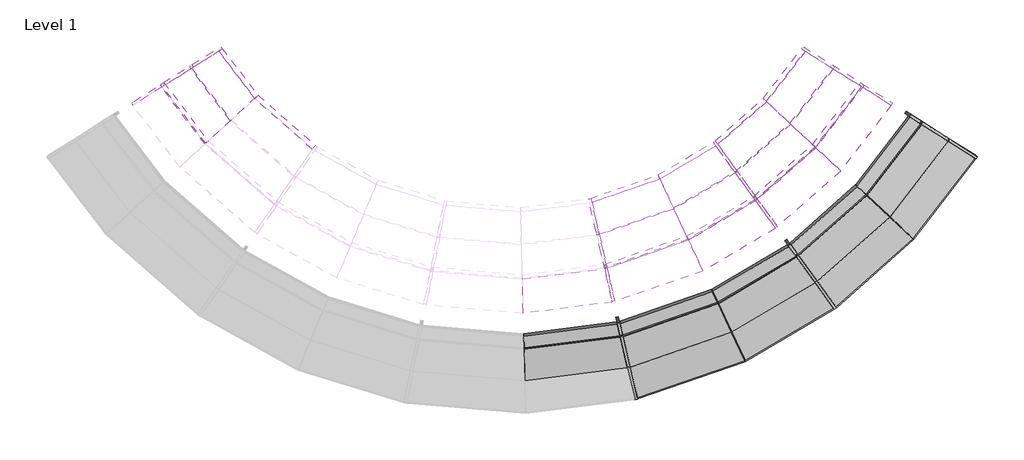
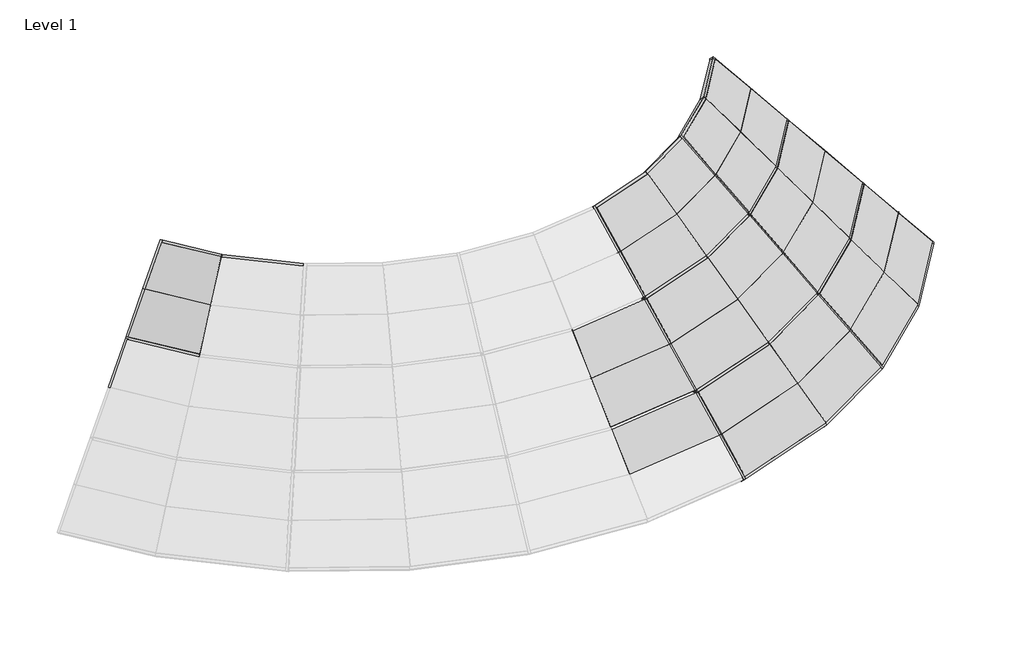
# One storey, part 2 of 2: 40 members, 29 plates.
"""IFC4 building model written with IfcOpenShell, lengths in millimetres."""

from ifc_helpers import new_model, si_unit, origin, place, context, project, spatial, transform, mapped, element, save
from components import member_44b84d8f, member_1634c9d9, member_0b05aa08, member_71fe8ef3, member_56d069ed, member_b45a1477, member_6b1a858c, member_b02eb1a0, member_f55f91ff, member_0534a094, member_226e51d8, member_2e5d21c2, member_49f7380d, member_76298f12, member_9ce02bd3, member_33b1c097, member_ecae5a84, member_2f7d4205, member_d2b3dc28, member_d7561c94, member_e1afa6be, member_a30be3ee, member_f37d5125, member_64ad3ddf, member_dc8b4db6, member_e949c9f9, member_73d7b1ca, member_ff94b395, member_0317ee9b, system_panel_glazed_ac056b50, system_panel_glazed_819b4604, system_panel_glazed_d60e5a7a, system_panel_glazed_abaf4edb, system_panel_glazed_d52020fd, system_panel_glazed_5f14ad94, system_panel_glazed_a80fbb92, system_panel_glazed_601a3350, system_panel_glazed_839ff4eb, system_panel_glazed_6834b28e, system_panel_glazed_842aa2e1, system_panel_glazed_79b39dd9, system_panel_glazed_6abd9531, system_panel_glazed_5d3b9be6, system_panel_glazed_2e1f7ecc, system_panel_glazed_8beea25a, system_panel_glazed_fb6dfde9, system_panel_glazed_ada13052, system_panel_glazed_84b50dde, system_panel_glazed_1a7a9327, system_panel_glazed_52743ef8, system_panel_glazed_40fbaaaa, system_panel_glazed_feeb608c, system_panel_glazed_8ef4ce16, system_panel_glazed_74486a92, system_panel_glazed_d4b71dd6, system_panel_glazed_5ea31307

model = new_model("IFC4")

# Units and contexts
model_context = context("Model", 3, world=origin())
ifc_project = project(units=[si_unit("LENGTHUNIT", "METRE", prefix="MILLI")], contexts=[model_context])

# Site, building, storey
site = spatial("IfcSite", under=ifc_project)
building = spatial("IfcBuilding", under=site)
storey = spatial("IfcBuildingStorey", under=building, Name="Level 1", Elevation=0.0)

# Members
placement = place(None, origin())
member_shape = member_44b84d8f(model_context)
element("IfcMember", 1, ObjectType="Rectangular Mullion : 1.5\" x 2.5\" rectangular", at=placement, inside=storey, context=model_context, shape_type="MappedRepresentation", body=[
    mapped(member_shape, transform((3826.5403274, -548.9827965, 2022.8305952), x_axis=(-0.5612703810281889, 0.4327139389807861, 0.7055028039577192), y_axis=(-0.5587328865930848, 0.4307572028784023, -0.7087071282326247), z_axis=(-0.610567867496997, -0.7919639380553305, 2.488056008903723e-07))),
])
member_2_shape = member_1634c9d9(model_context)
element("IfcMember", 2, ObjectType="Rectangular Mullion : 1.5\" x 2.5\" rectangular", at=placement, inside=storey, context=model_context, shape_type="MappedRepresentation", body=[
    mapped(member_2_shape, transform((-5960.083973, 384.8296277, 2022.8303018), x_axis=(0.5636612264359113, 0.42927735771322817, 0.7056960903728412), y_axis=(0.5614194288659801, 0.42756893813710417, -0.7085146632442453), z_axis=(-0.6058830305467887, 0.7955537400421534, -6.169361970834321e-07))),
])
member_3_shape = member_0b05aa08(model_context)
element("IfcMember", 3, ObjectType="Rectangular Mullion : 1.5\" x 2.5\" rectangular", at=placement, inside=storey, context=model_context, shape_type="MappedRepresentation", body=[
    mapped(member_3_shape, transform((4587.0078885, -1260.1450664, 981.647293), x_axis=(-0.5612703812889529, 0.4327139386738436, 0.7055028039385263), y_axis=(-0.5587328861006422, 0.43075720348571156, -0.7087071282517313), z_axis=(-0.6105678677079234, -0.7919639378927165, 2.4796782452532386e-07))),
])
member_4_shape = member_71fe8ef3(model_context)
element("IfcMember", 4, ObjectType="Rectangular Mullion : 1.5\" x 2.5\" rectangular", at=placement, inside=storey, context=model_context, shape_type="MappedRepresentation", body=[
    mapped(member_4_shape, transform((-5526.2431373, 657.8231835, 2535.4151509), x_axis=(-0.5693047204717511, 0.8209135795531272, 0.04464336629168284), y_axis=(0.5636612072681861, 0.42927738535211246, -0.7056960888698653), z_axis=(-0.5984798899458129, -0.37659238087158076, -0.7071067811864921))),
])
element("IfcMember", 5, ObjectType="Rectangular Mullion : 1.5\" x 2.5\" rectangular", at=placement, inside=storey, context=model_context, shape_type="MappedRepresentation", body=[
    mapped(member_4_shape, transform((-5960.0838701, 384.8296925, 2022.8303018), x_axis=(-0.5693047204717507, 0.8209135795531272, 0.04464336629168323), y_axis=(0.5636612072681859, 0.4292773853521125, -0.7056960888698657), z_axis=(-0.5984798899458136, -0.3765923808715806, -0.7071067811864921))),
])
element("IfcMember", 6, ObjectType="Rectangular Mullion : 1.5\" x 2.5\" rectangular", at=placement, inside=storey, context=model_context, shape_type="MappedRepresentation", body=[
    mapped(member_4_shape, transform((-6393.9246028, 111.8362015, 1510.2454527), x_axis=(-0.5693047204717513, 0.820913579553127, 0.04464336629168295), y_axis=(0.5636612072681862, 0.4292773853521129, -0.7056960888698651), z_axis=(-0.5984798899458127, -0.37659238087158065, -0.7071067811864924))),
])
element("IfcMember", 7, ObjectType="Rectangular Mullion : 1.5\" x 2.5\" rectangular", at=placement, inside=storey, context=model_context, shape_type="MappedRepresentation", body=[
    mapped(member_4_shape, transform((4112.6267264, 657.8231835, 2535.4151509), x_axis=(0.5716619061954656, 0.81910735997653, 0.04760039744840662), y_axis=(-0.5612704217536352, 0.43271389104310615, -0.7055028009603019), z_axis=(-0.5984798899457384, 0.37659238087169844, 0.7071067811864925))),
])
element("IfcMember", 8, ObjectType="Rectangular Mullion : 1.5\" x 2.5\" rectangular", at=placement, inside=storey, context=model_context, shape_type="MappedRepresentation", body=[
    mapped(member_4_shape, transform((4546.4674591, 384.8296925, 2022.8303018), x_axis=(0.5716619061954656, 0.8191073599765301, 0.04760039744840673), y_axis=(-0.5612704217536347, 0.43271389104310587, -0.7055028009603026), z_axis=(-0.598479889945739, 0.3765923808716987, 0.707106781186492))),
])
member_5_shape = member_56d069ed(model_context)
element("IfcMember", 9, ObjectType="Rectangular Mullion : 1.5\" x 2.5\" rectangular", at=placement, inside=storey, context=model_context, shape_type="MappedRepresentation", body=[
    mapped(member_5_shape, transform((5427.7025335, -169.6858733, 981.6469515), x_axis=(0.5716619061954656, 0.8191073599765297, 0.047600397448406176), y_axis=(-0.5612704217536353, 0.4327138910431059, -0.7055028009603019), z_axis=(-0.5984798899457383, 0.37659238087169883, 0.7071067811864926))),
])
member_6_shape = member_b45a1477(model_context)
element("IfcMember", 10, ObjectType="Rectangular Mullion : 1.5\" x 2.5\" rectangular", at=placement, inside=storey, context=model_context, shape_type="MappedRepresentation", body=[
    mapped(member_6_shape, transform((4980.3081919, 111.8362015, 1510.2454527), x_axis=(0.5716619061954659, 0.8191073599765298, 0.0476003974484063), y_axis=(-0.5612704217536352, 0.43271389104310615, -0.7055028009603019), z_axis=(-0.5984798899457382, 0.3765923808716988, 0.7071067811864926))),
])
member_7_shape = member_6b1a858c(model_context)
element("IfcMember", 11, ObjectType="Rectangular Mullion : 1.5\" x 2.5\" rectangular", at=placement, inside=storey, context=model_context, shape_type="MappedRepresentation", body=[
    mapped(member_7_shape, transform((-4532.8946178, 196.1568826, 3048.0), x_axis=(0.46386295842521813, 0.5307213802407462, 0.7093419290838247), y_axis=(0.46680947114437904, 0.53409258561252, -0.7048645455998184), z_axis=(-0.7529409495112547, 0.6580880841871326, 0.0))),
])
member_8_shape = member_b02eb1a0(model_context)
element("IfcMember", 12, ObjectType="Rectangular Mullion : 1.5\" x 2.5\" rectangular", at=placement, inside=storey, context=model_context, shape_type="MappedRepresentation", body=[
    mapped(member_8_shape, transform((463.8192775, -1357.1902472, 3048.0), x_axis=(0.9741458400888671, 0.22592007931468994, 0.0), y_axis=(-0.1597496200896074, 0.6888251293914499, -0.707106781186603), z_axis=(-0.15974962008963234, 0.6888251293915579, 0.7071067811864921))),
])
element("IfcMember", 13, ObjectType="Rectangular Mullion : 1.5\" x 2.5\" rectangular", at=placement, inside=storey, context=model_context, shape_type="MappedRepresentation", body=[
    mapped(member_8_shape, transform((2340.1697262, -500.6066324, 3048.0), x_axis=(0.8088332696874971, 0.5880380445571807, 0.0), y_axis=(-0.41580568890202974, 0.5719314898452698, -0.7071067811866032), z_axis=(-0.41580568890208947, 0.5719314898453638, 0.7071067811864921))),
])
member_9_shape = member_f55f91ff(model_context)
element("IfcMember", 14, ObjectType="Rectangular Mullion : 1.5\" x 2.5\" rectangular", at=placement, inside=storey, context=model_context, shape_type="MappedRepresentation", body=[
    mapped(member_9_shape, transform((1039.9613735, -3841.4600288, 497.7968586), x_axis=(0.974145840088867, 0.22592007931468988, 0.0), y_axis=(-0.15974962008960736, 0.6888251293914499, -0.7071067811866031), z_axis=(-0.1597496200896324, 0.6888251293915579, 0.707106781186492))),
])
element("IfcMember", 15, ObjectType="Rectangular Mullion : 1.5\" x 2.5\" rectangular", at=placement, inside=storey, context=model_context, shape_type="MappedRepresentation", body=[
    mapped(member_9_shape, transform((3839.7858091, -2563.2952473, 497.7975143), x_axis=(0.8088332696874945, 0.5880380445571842, 0.0), y_axis=(-0.4158056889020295, 0.5719314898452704, -0.7071067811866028), z_axis=(-0.4158056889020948, 0.5719314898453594, 0.7071067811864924))),
])
member_10_shape = member_0534a094(model_context)
element("IfcMember", 16, ObjectType="Rectangular Mullion : 1.5\" x 2.5\" rectangular", at=placement, inside=storey, context=model_context, shape_type="MappedRepresentation", body=[
    mapped(member_10_shape, transform((930.6498844, -3370.1193109, 981.6471185), x_axis=(0.9741458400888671, 0.22592007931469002, 0.0), y_axis=(-0.15974962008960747, 0.6888251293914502, -0.7071067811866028), z_axis=(-0.1597496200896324, 0.6888251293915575, 0.7071067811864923))),
])
element("IfcMember", 17, ObjectType="Rectangular Mullion : 1.5\" x 2.5\" rectangular", at=placement, inside=storey, context=model_context, shape_type="MappedRepresentation", body=[
    mapped(member_10_shape, transform((3555.2634726, -2171.9410927, 981.6477331), x_axis=(0.8088332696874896, 0.5880380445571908, 0.0), y_axis=(-0.4158056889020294, 0.5719314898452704, -0.7071067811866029), z_axis=(-0.4158056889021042, 0.5719314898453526, 0.7071067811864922))),
])
member_11_shape = member_226e51d8(model_context)
element("IfcMember", 18, ObjectType="Rectangular Mullion : 1.5\" x 2.5\" rectangular", at=placement, inside=storey, context=model_context, shape_type="MappedRepresentation", body=[
    mapped(member_11_shape, transform((811.2288718, -2855.1872917, 1510.2456075), x_axis=(0.974145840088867, 0.22592007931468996, 0.0), y_axis=(-0.15974962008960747, 0.6888251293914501, -0.7071067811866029), z_axis=(-0.1597496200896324, 0.6888251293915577, 0.7071067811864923))),
])
element("IfcMember", 19, ObjectType="Rectangular Mullion : 1.5\" x 2.5\" rectangular", at=placement, inside=storey, context=model_context, shape_type="MappedRepresentation", body=[
    mapped(member_11_shape, transform((3244.4274771, -1744.3930847, 1510.2461774), x_axis=(0.8088332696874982, 0.5880380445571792, 0.0), y_axis=(-0.41580568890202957, 0.5719314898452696, -0.7071067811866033), z_axis=(-0.41580568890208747, 0.5719314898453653, 0.7071067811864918))),
])
member_12_shape = member_2e5d21c2(model_context)
element("IfcMember", 20, ObjectType="Rectangular Mullion : 1.5\" x 2.5\" rectangular", at=placement, inside=storey, context=model_context, shape_type="MappedRepresentation", body=[
    mapped(member_12_shape, transform((695.4231015, -2355.8438526, 2022.8417903), x_axis=(0.9741458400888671, 0.2259200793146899, 0.0), y_axis=(-0.15974962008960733, 0.6888251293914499, -0.7071067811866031), z_axis=(-0.1597496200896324, 0.6888251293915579, 0.7071067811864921))),
])
element("IfcMember", 21, ObjectType="Rectangular Mullion : 1.5\" x 2.5\" rectangular", at=placement, inside=storey, context=model_context, shape_type="MappedRepresentation", body=[
    mapped(member_12_shape, transform((2943.0081019, -1329.7974289, 2022.8309973), x_axis=(0.8088332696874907, 0.5880380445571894, 0.0), y_axis=(-0.41580568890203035, 0.5719314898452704, -0.7071067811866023), z_axis=(-0.4158056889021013, 0.571931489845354, 0.7071067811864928))),
])
member_13_shape = member_49f7380d(model_context)
element("IfcMember", 22, ObjectType="Rectangular Mullion : 1.5\" x 2.5\" rectangular", at=placement, inside=storey, context=model_context, shape_type="MappedRepresentation", body=[
    mapped(member_13_shape, transform((579.6201061, -1856.5123784, 2535.4256906), x_axis=(0.974145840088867, 0.2259200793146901, 0.0), y_axis=(-0.15974962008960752, 0.6888251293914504, -0.7071067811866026), z_axis=(-0.15974962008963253, 0.6888251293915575, 0.7071067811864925))),
])
element("IfcMember", 23, ObjectType="Rectangular Mullion : 1.5\" x 2.5\" rectangular", at=placement, inside=storey, context=model_context, shape_type="MappedRepresentation", body=[
    mapped(member_13_shape, transform((2641.5887434, -915.2017958, 2535.4157889), x_axis=(0.8088332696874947, 0.588038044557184, 0.0), y_axis=(-0.4158056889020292, 0.57193148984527, -0.7071067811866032), z_axis=(-0.41580568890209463, 0.57193148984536, 0.7071067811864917))),
])
member_14_shape = member_76298f12(model_context)
element("IfcMember", 24, ObjectType="Rectangular Mullion : 1.5\" x 2.5\" rectangular", at=placement, inside=storey, context=model_context, shape_type="MappedRepresentation", body=[
    mapped(member_14_shape, transform((695.4230982, -2355.843838, 2022.8417903), x_axis=(-0.23185638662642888, 0.6700865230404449, 0.7051430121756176), y_axis=(-0.230584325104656, 0.6663764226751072, -0.7090651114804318), z_axis=(-0.9450256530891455, -0.32699620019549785, 7.819182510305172e-06))),
])
member_15_shape = member_9ce02bd3(model_context)
element("IfcMember", 25, ObjectType="Rectangular Mullion : 1.5\" x 2.5\" rectangular", at=placement, inside=storey, context=model_context, shape_type="MappedRepresentation", body=[
    mapped(member_15_shape, transform((930.6498602, -3370.1192066, 981.6471185), x_axis=(-0.23186685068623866, 0.6700835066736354, 0.7051424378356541), y_axis=(-0.23058324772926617, 0.6663761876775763, -0.7090656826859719), z_axis=(-0.945023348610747, -0.32700286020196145, -5.167904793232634e-07))),
])
member_16_shape = member_33b1c097(model_context)
element("IfcMember", 26, ObjectType="Rectangular Mullion : 1.5\" x 2.5\" rectangular", at=placement, inside=storey, context=model_context, shape_type="MappedRepresentation", body=[
    mapped(member_16_shape, transform((1492.6072964, -1001.2029957, 3048.0), x_axis=(-0.35878458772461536, 0.6074601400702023, 0.708707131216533), y_axis=(-0.36041415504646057, 0.6102191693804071, -0.7055028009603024), z_axis=(-0.8610315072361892, -0.5085516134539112, 0.0))),
])
member_17_shape = member_ecae5a84(model_context)
element("IfcMember", 27, ObjectType="Rectangular Mullion : 1.5\" x 2.5\" rectangular", at=placement, inside=storey, context=model_context, shape_type="MappedRepresentation", body=[
    mapped(member_17_shape, transform((1927.7570663, -1929.4355368, 2022.8315938), x_axis=(-0.3604138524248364, 0.6102193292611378, 0.705502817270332), y_axis=(-0.3587849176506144, 0.6074599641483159, -0.7087071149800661), z_axis=(-0.8610314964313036, -0.5085516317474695, 5.059252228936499e-07))),
])
member_18_shape = member_2f7d4205(model_context)
element("IfcMember", 28, ObjectType="Rectangular Mullion : 1.5\" x 2.5\" rectangular", at=placement, inside=storey, context=model_context, shape_type="MappedRepresentation", body=[
    mapped(member_18_shape, transform((2943.0082647, -1329.7976528, 2022.8309973), x_axis=(-0.46931075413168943, 0.5310491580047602, 0.7055028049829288), y_axis=(-0.4671891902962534, 0.5286477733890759, -0.7087071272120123), z_axis=(-0.7493208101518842, -0.6622071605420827, 3.409364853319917e-07))),
])
member_19_shape = member_d2b3dc28(model_context)
element("IfcMember", 29, ObjectType="Rectangular Mullion : 1.5\" x 2.5\" rectangular", at=placement, inside=storey, context=model_context, shape_type="MappedRepresentation", body=[
    mapped(member_19_shape, transform((2369.7046076, -2872.1686315, 981.6479054), x_axis=(-0.3604142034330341, 0.6102191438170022, 0.7055027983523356), y_axis=(-0.35878478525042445, 0.6074600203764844, -0.708707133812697), z_axis=(-0.8610314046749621, -0.5085517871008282, 1.2510867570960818e-07))),
])
member_20_shape = member_d7561c94(model_context)
element("IfcMember", 30, ObjectType="Rectangular Mullion : 1.5\" x 2.5\" rectangular", at=placement, inside=storey, context=model_context, shape_type="MappedRepresentation", body=[
    mapped(member_20_shape, transform((3555.2636548, -2171.9413433, 981.6477331), x_axis=(-0.46931076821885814, 0.5310491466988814, 0.7055028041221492), y_axis=(-0.46718918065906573, 0.5286477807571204, -0.7087071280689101), z_axis=(-0.7493208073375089, -0.662207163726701, 3.1963162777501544e-07))),
])
member_21_shape = member_e1afa6be(model_context)
element("IfcMember", 31, ObjectType="Rectangular Mullion : 1.5\" x 2.5\" rectangular", at=placement, inside=storey, context=model_context, shape_type="MappedRepresentation", body=[
    mapped(member_21_shape, transform((4116.1070358, -2975.6183466, 0.0), x_axis=(0.35878458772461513, -0.6074601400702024, -0.7087071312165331), y_axis=(-0.36041415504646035, 0.6102191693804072, -0.7055028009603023), z_axis=(0.8610315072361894, 0.5085516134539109, 0.0))),
])
member_22_shape = member_a30be3ee(model_context)
element("IfcMember", 32, ObjectType="Rectangular Mullion : 1.5\" x 2.5\" rectangular", at=placement, inside=storey, context=model_context, shape_type="MappedRepresentation", body=[
    mapped(member_22_shape, transform((3077.7690881, 151.2414885, 3048.0), x_axis=(-0.5587327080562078, 0.4307574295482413, 0.7087071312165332), y_axis=(-0.5612704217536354, 0.4327138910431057, -0.705502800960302), z_axis=(-0.6105679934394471, -0.7919638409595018, 0.0))),
])
member_23_shape = member_f37d5125(model_context)
element("IfcMember", 33, ObjectType="Rectangular Mullion : 1.5\" x 2.5\" rectangular", at=placement, inside=storey, context=model_context, shape_type="MappedRepresentation", body=[
    mapped(member_23_shape, transform((6235.2846467, -722.6672439, 0.0), x_axis=(0.5587327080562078, -0.43075742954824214, -0.7087071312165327), y_axis=(-0.5612704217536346, 0.432713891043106, -0.7055028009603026), z_axis=(0.6105679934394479, 0.7919638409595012, 0.0))),
])
member_24_shape = member_64ad3ddf(model_context)
element("IfcMember", 34, ObjectType="Rectangular Mullion : 1.5\" x 2.5\" rectangular", at=placement, inside=storey, context=model_context, shape_type="MappedRepresentation", body=[
    mapped(member_24_shape, transform((5837.2229407, -427.3758437, 497.7966805), x_axis=(0.571661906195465, 0.8191073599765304, 0.047600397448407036), y_axis=(-0.5612704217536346, 0.4327138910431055, -0.7055028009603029), z_axis=(-0.5984798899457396, 0.3765923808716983, 0.7071067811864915))),
])
element("IfcMember", 35, ObjectType="Rectangular Mullion : 1.5\" x 2.5\" rectangular", at=placement, inside=storey, context=model_context, shape_type="MappedRepresentation", body=[
    mapped(member_4_shape, transform((3678.7859937, 930.8166745, 3048.0), x_axis=(0.5716619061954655, 0.81910735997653, 0.047600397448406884), y_axis=(-0.5612704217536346, 0.43271389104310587, -0.7055028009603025), z_axis=(-0.5984798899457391, 0.37659238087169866, 0.7071067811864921))),
])
member_25_shape = member_dc8b4db6(model_context)
element("IfcMember", 36, ObjectType="Rectangular Mullion : 1.5\" x 2.5\" rectangular", at=placement, inside=storey, context=model_context, shape_type="MappedRepresentation", body=[
    mapped(member_25_shape, transform((-5069.3182411, 900.5060923, 3048.0), x_axis=(0.5614188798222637, 0.42756965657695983, 0.7085146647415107), y_axis=(0.5636612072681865, 0.42927738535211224, -0.7056960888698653), z_axis=(-0.6058835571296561, 0.7955533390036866, 0.0))),
])
member_26_shape = member_e949c9f9(model_context)
element("IfcMember", 37, ObjectType="Rectangular Mullion : 1.5\" x 2.5\" rectangular", at=placement, inside=storey, context=model_context, shape_type="MappedRepresentation", body=[
    mapped(member_26_shape, transform((2354.4442904, -487.9915891, 3048.0), x_axis=(-0.4671888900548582, 0.5286480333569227, 0.7087071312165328), y_axis=(-0.4693108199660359, 0.5310491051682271, -0.7055028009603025), z_axis=(-0.7493209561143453, -0.6622069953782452, 0.0))),
])
member_27_shape = member_73d7b1ca(model_context)
element("IfcMember", 38, ObjectType="Rectangular Mullion : 1.5\" x 2.5\" rectangular", at=placement, inside=storey, context=model_context, shape_type="MappedRepresentation", body=[
    mapped(member_27_shape, transform((481.8219744, -1350.9608487, 3048.0), x_axis=(-0.23058338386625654, 0.6663761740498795, 0.7090656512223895), y_axis=(-0.23186627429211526, 0.6700836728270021, -0.7051424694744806), z_axis=(-0.9450234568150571, -0.3270025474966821, 0.0))),
])
member_28_shape = member_ff94b395(model_context)
element("IfcMember", 39, ObjectType="Rectangular Mullion : 1.5\" x 2.5\" rectangular", at=placement, inside=storey, context=model_context, shape_type="MappedRepresentation", body=[
    mapped(member_28_shape, transform((2786.381121, -3760.9952507, 0.0), x_axis=(0.23058338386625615, -0.6663761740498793, -0.70906565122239), y_axis=(-0.23186627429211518, 0.6700836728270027, -0.7051424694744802), z_axis=(0.9450234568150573, 0.3270025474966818, 0.0))),
])
member_29_shape = member_0317ee9b(model_context)
element("IfcMember", 40, ObjectType="Rectangular Mullion : 1.5\" x 2.5\" rectangular", at=placement, inside=storey, context=model_context, shape_type="MappedRepresentation", body=[
    mapped(member_29_shape, transform((5303.9910255, -1930.6422463, 0.0), x_axis=(0.46718889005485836, -0.5286480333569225, -0.7087071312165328), y_axis=(-0.46931081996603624, 0.531049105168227, -0.7055028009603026), z_axis=(0.7493209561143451, 0.6622069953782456, 0.0))),
])

# Plates
system_panel_glazed_shape = system_panel_glazed_ac056b50(model_context)
element("IfcPlate", 41, ObjectType="System Panel : Glazed", at=placement, inside=storey, context=model_context, shape_type="MappedRepresentation", body=[
    mapped(system_panel_glazed_shape, transform((-4801.0834648, 548.3013339, 3048.0), x_axis=(0.6058835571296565, -0.7955533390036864, 0.0), y_axis=(-0.5636612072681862, -0.4292773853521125, 0.7056960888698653), z_axis=(-0.5614188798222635, -0.42756965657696, -0.7085146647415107))),
])
system_panel_glazed_2_shape = system_panel_glazed_819b4604(model_context)
element("IfcPlate", 42, ObjectType="System Panel : Glazed", at=placement, inside=storey, context=model_context, shape_type="MappedRepresentation", body=[
    mapped(system_panel_glazed_2_shape, transform((-5207.2493153, 238.9704622, 2535.4157769), x_axis=(0.6058835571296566, -0.7955533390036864, 0.0), y_axis=(-0.5636612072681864, -0.4292773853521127, 0.7056960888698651), z_axis=(-0.5614188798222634, -0.42756965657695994, -0.7085146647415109))),
])
system_panel_glazed_3_shape = system_panel_glazed_d60e5a7a(model_context)
element("IfcPlate", 43, ObjectType="System Panel : Glazed", at=placement, inside=storey, context=model_context, shape_type="MappedRepresentation", body=[
    mapped(system_panel_glazed_3_shape, transform((996.0252553, -1201.4620678, 3020.9845987), x_axis=(0.9450234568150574, 0.3270025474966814, 0.0), y_axis=(0.23186627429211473, -0.6700836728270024, 0.7051424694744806), z_axis=(0.23058338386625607, -0.6663761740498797, -0.7090656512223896))),
])
system_panel_glazed_4_shape = system_panel_glazed_abaf4edb(model_context)
element("IfcPlate", 44, ObjectType="System Panel : Glazed", at=placement, inside=storey, context=model_context, shape_type="MappedRepresentation", body=[
    mapped(system_panel_glazed_4_shape, transform((1816.5482191, -3572.7400199, 497.7976981), x_axis=(0.9450234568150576, 0.32700254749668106, 0.0), y_axis=(0.23186627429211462, -0.6700836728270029, 0.7051424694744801), z_axis=(0.2305833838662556, -0.6663761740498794, -0.70906565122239))),
])
system_panel_glazed_5_shape = system_panel_glazed_d52020fd(model_context)
element("IfcPlate", 45, ObjectType="System Panel : Glazed", at=placement, inside=storey, context=model_context, shape_type="MappedRepresentation", body=[
    mapped(system_panel_glazed_5_shape, transform((191.6307755, -3463.918816, 981.6473765), x_axis=(0.9920410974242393, 0.1259144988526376, 0.0), y_axis=(0.08926503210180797, -0.7032913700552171, 0.7052751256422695), z_axis=(0.08880436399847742, -0.6996619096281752, -0.7089337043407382))),
])
system_panel_glazed_6_shape = system_panel_glazed_5f14ad94(model_context)
element("IfcPlate", 46, ObjectType="System Panel : Glazed", at=placement, inside=storey, context=model_context, shape_type="MappedRepresentation", body=[
    mapped(system_panel_glazed_6_shape, transform((1659.2033426, -3118.0201511, 981.6479054), x_axis=(0.9450234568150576, 0.327002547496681, 0.0), y_axis=(0.2318662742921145, -0.6700836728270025, 0.7051424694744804), z_axis=(0.23058338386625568, -0.6663761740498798, -0.7090656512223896))),
])
system_panel_glazed_7_shape = system_panel_glazed_a80fbb92(model_context)
element("IfcPlate", 47, ObjectType="System Panel : Glazed", at=placement, inside=storey, context=model_context, shape_type="MappedRepresentation", body=[
    mapped(system_panel_glazed_7_shape, transform((125.4160486, -2942.2336249, 1510.2458467), x_axis=(0.9920410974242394, 0.1259144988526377, 0.0), y_axis=(0.08926503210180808, -0.7032913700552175, 0.705275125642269), z_axis=(0.08880436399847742, -0.6996619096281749, -0.7089337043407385))),
])
system_panel_glazed_8_shape = system_panel_glazed_601a3350(model_context)
element("IfcPlate", 48, ObjectType="System Panel : Glazed", at=placement, inside=storey, context=model_context, shape_type="MappedRepresentation", body=[
    mapped(system_panel_glazed_8_shape, transform((1487.3066883, -2621.246121, 1510.2463371), x_axis=(0.9450234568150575, 0.32700254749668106, 0.0), y_axis=(0.2318662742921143, -0.6700836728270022, 0.7051424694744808), z_axis=(0.23058338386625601, -0.66637617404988, -0.7090656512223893))),
])
system_panel_glazed_9_shape = system_panel_glazed_839ff4eb(model_context)
element("IfcPlate", 49, ObjectType="System Panel : Glazed", at=placement, inside=storey, context=model_context, shape_type="MappedRepresentation", body=[
    mapped(system_panel_glazed_9_shape, transform((61.2066106, -2436.34748, 2022.8359047), x_axis=(0.9920410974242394, 0.1259144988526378, 0.0), y_axis=(0.08926503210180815, -0.7032913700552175, 0.705275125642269), z_axis=(0.08880436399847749, -0.6996619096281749, -0.7089337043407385))),
])
system_panel_glazed_10_shape = system_panel_glazed_6834b28e(model_context)
element("IfcPlate", 50, ObjectType="System Panel : Glazed", at=placement, inside=storey, context=model_context, shape_type="MappedRepresentation", body=[
    mapped(system_panel_glazed_10_shape, transform((1320.6174108, -2139.5211885, 2022.8315939), x_axis=(0.9450234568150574, 0.32700254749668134, 0.0), y_axis=(0.2318662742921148, -0.6700836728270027, 0.7051424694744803), z_axis=(0.23058338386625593, -0.6663761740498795, -0.7090656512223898))),
])
system_panel_glazed_11_shape = system_panel_glazed_842aa2e1(model_context)
element("IfcPlate", 51, ObjectType="System Panel : Glazed", at=placement, inside=storey, context=model_context, shape_type="MappedRepresentation", body=[
    mapped(system_panel_glazed_11_shape, transform((1153.9257892, -1657.7877647, 2535.4256906), x_axis=(0.9450234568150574, 0.32700254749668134, 0.0), y_axis=(0.23186627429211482, -0.6700836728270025, 0.7051424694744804), z_axis=(0.23058338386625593, -0.6663761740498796, -0.7090656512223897))),
])
system_panel_glazed_12_shape = system_panel_glazed_79b39dd9(model_context)
element("IfcPlate", 52, ObjectType="System Panel : Glazed", at=placement, inside=storey, context=model_context, shape_type="MappedRepresentation", body=[
    mapped(system_panel_glazed_12_shape, transform((1921.8383394, -778.9039495, 3020.9982583), x_axis=(0.8610315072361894, 0.5085516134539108, 0.0), y_axis=(0.36041415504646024, -0.6102191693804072, 0.7055028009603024), z_axis=(0.3587845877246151, -0.6074601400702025, -0.708707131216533))),
])
element("IfcPlate", 53, ObjectType="System Panel : Glazed", at=placement, inside=storey, context=model_context, shape_type="MappedRepresentation", body=[
    mapped(system_panel_glazed_12_shape, transform((2733.9227522, -188.5022536, 3020.9982583), x_axis=(0.7493209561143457, 0.6622069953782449, 0.0), y_axis=(0.46931081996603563, -0.5310491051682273, 0.7055028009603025), z_axis=(0.46718889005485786, -0.5286480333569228, -0.7087071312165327))),
])
system_panel_glazed_13_shape = system_panel_glazed_6abd9531(model_context)
element("IfcPlate", 54, ObjectType="System Panel : Glazed", at=placement, inside=storey, context=model_context, shape_type="MappedRepresentation", body=[
    mapped(system_panel_glazed_13_shape, transform((3199.2143066, -2941.6362086, 497.7976981), x_axis=(0.8610315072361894, 0.5085516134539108, 0.0), y_axis=(0.3604141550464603, -0.6102191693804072, 0.7055028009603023), z_axis=(0.358784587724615, -0.6074601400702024, -0.708707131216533))),
])
element("IfcPlate", 55, ObjectType="System Panel : Glazed", at=placement, inside=storey, context=model_context, shape_type="MappedRepresentation", body=[
    mapped(system_panel_glazed_13_shape, transform((4397.2492474, -2070.6409589, 497.7975082), x_axis=(0.7493209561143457, 0.662206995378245, 0.0), y_axis=(0.4693108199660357, -0.5310491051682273, 0.7055028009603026), z_axis=(0.4671888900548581, -0.5286480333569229, -0.7087071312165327))),
])
system_panel_glazed_14_shape = system_panel_glazed_5d3b9be6(model_context)
element("IfcPlate", 56, ObjectType="System Panel : Glazed", at=placement, inside=storey, context=model_context, shape_type="MappedRepresentation", body=[
    mapped(system_panel_glazed_14_shape, transform((2954.2640524, -2526.9095819, 981.6479054), x_axis=(0.8610315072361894, 0.5085516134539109, 0.0), y_axis=(0.3604141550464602, -0.610219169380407, 0.7055028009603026), z_axis=(0.3587845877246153, -0.6074601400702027, -0.7087071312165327))),
])
system_panel_glazed_15_shape = system_panel_glazed_2e1f7ecc(model_context)
element("IfcPlate", 57, ObjectType="System Panel : Glazed", at=placement, inside=storey, context=model_context, shape_type="MappedRepresentation", body=[
    mapped(system_panel_glazed_15_shape, transform((4078.2892394, -1709.7214249, 981.647293), x_axis=(0.7493209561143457, 0.662206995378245, 0.0), y_axis=(0.4693108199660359, -0.5310491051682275, 0.7055028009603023), z_axis=(0.46718889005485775, -0.5286480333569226, -0.708707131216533))),
])
system_panel_glazed_16_shape = system_panel_glazed_8beea25a(model_context)
element("IfcPlate", 58, ObjectType="System Panel : Glazed", at=placement, inside=storey, context=model_context, shape_type="MappedRepresentation", body=[
    mapped(system_panel_glazed_16_shape, transform((2686.6599006, -2073.8275358, 1510.2463371), x_axis=(0.8610315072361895, 0.5085516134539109, 0.0), y_axis=(0.3604141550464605, -0.6102191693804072, 0.7055028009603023), z_axis=(0.35878458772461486, -0.6074601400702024, -0.7087071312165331))),
])
system_panel_glazed_17_shape = system_panel_glazed_fb6dfde9(model_context)
element("IfcPlate", 59, ObjectType="System Panel : Glazed", at=placement, inside=storey, context=model_context, shape_type="MappedRepresentation", body=[
    mapped(system_panel_glazed_17_shape, transform((3729.8300298, -1315.4220766, 1510.2461774), x_axis=(0.7493209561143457, 0.662206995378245, 0.0), y_axis=(0.4693108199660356, -0.5310491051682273, 0.7055028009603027), z_axis=(0.46718889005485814, -0.5286480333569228, -0.7087071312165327))),
])
system_panel_glazed_18_shape = system_panel_glazed_ada13052(model_context)
element("IfcPlate", 60, ObjectType="System Panel : Glazed", at=placement, inside=storey, context=model_context, shape_type="MappedRepresentation", body=[
    mapped(system_panel_glazed_18_shape, transform((2427.1624548, -1634.4709977, 2022.8315939), x_axis=(0.8610315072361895, 0.5085516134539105, 0.0), y_axis=(0.36041415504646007, -0.6102191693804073, 0.7055028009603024), z_axis=(0.3587845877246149, -0.6074601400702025, -0.708707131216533))),
])
system_panel_glazed_19_shape = system_panel_glazed_84b50dde(model_context)
element("IfcPlate", 61, ObjectType="System Panel : Glazed", at=placement, inside=storey, context=model_context, shape_type="MappedRepresentation", body=[
    mapped(system_panel_glazed_19_shape, transform((3391.9277631, -933.0684473, 2022.8305952), x_axis=(0.7493209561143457, 0.662206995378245, 0.0), y_axis=(0.4693108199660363, -0.5310491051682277, 0.705502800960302), z_axis=(0.4671888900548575, -0.5286480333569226, -0.7087071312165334))),
])
system_panel_glazed_20_shape = system_panel_glazed_1a7a9327(model_context)
element("IfcPlate", 62, ObjectType="System Panel : Glazed", at=placement, inside=storey, context=model_context, shape_type="MappedRepresentation", body=[
    mapped(system_panel_glazed_20_shape, transform((2167.6652874, -1195.1148899, 2535.4163363), x_axis=(0.8610315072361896, 0.5085516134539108, 0.0), y_axis=(0.3604141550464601, -0.6102191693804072, 0.7055028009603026), z_axis=(0.35878458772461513, -0.6074601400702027, -0.7087071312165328))),
])
system_panel_glazed_21_shape = system_panel_glazed_52743ef8(model_context)
element("IfcPlate", 63, ObjectType="System Panel : Glazed", at=placement, inside=storey, context=model_context, shape_type="MappedRepresentation", body=[
    mapped(system_panel_glazed_21_shape, transform((3054.0249859, -550.7142385, 2535.4157889), x_axis=(0.7493209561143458, 0.6622069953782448, 0.0), y_axis=(0.4693108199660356, -0.5310491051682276, 0.7055028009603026), z_axis=(0.4671888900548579, -0.5286480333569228, -0.7087071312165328))),
])
system_panel_glazed_22_shape = system_panel_glazed_40fbaaaa(model_context)
element("IfcPlate", 64, ObjectType="System Panel : Glazed", at=placement, inside=storey, context=model_context, shape_type="MappedRepresentation", body=[
    mapped(system_panel_glazed_22_shape, transform((3366.6199037, 525.9080349, 3048.0), x_axis=(0.610567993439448, 0.7919638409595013, 0.0), y_axis=(0.561270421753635, -0.4327138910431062, 0.7055028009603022), z_axis=(0.5587327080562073, -0.4307574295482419, -0.7087071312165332))),
])
system_panel_glazed_23_shape = system_panel_glazed_feeb608c(model_context)
element("IfcPlate", 65, ObjectType="System Panel : Glazed", at=placement, inside=storey, context=model_context, shape_type="MappedRepresentation", body=[
    mapped(system_panel_glazed_23_shape, transform((3770.7329122, 214.3553416, 2535.4154201), x_axis=(0.6105679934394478, 0.7919638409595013, 0.0), y_axis=(0.5612704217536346, -0.43271389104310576, 0.7055028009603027), z_axis=(0.5587327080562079, -0.4307574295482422, -0.7087071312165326))),
])
system_panel_glazed_24_shape = system_panel_glazed_8ef4ce16(model_context)
element("IfcPlate", 66, ObjectType="System Panel : Glazed", at=placement, inside=storey, context=model_context, shape_type="MappedRepresentation", body=[
    mapped(system_panel_glazed_24_shape, transform((4185.4899716, -105.4034293, 2009.3297247), x_axis=(0.6105679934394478, 0.7919638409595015, 0.0), y_axis=(0.561270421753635, -0.43271389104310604, 0.7055028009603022), z_axis=(0.5587327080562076, -0.4307574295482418, -0.7087071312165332))),
])
system_panel_glazed_25_shape = system_panel_glazed_74486a92(model_context)
element("IfcPlate", 67, ObjectType="System Panel : Glazed", at=placement, inside=storey, context=model_context, shape_type="MappedRepresentation", body=[
    mapped(system_panel_glazed_25_shape, transform((4578.9593162, -408.7503432, 1510.2457693), x_axis=(0.6105679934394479, 0.7919638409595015, 0.0), y_axis=(0.5612704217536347, -0.4327138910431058, 0.7055028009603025), z_axis=(0.5587327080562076, -0.4307574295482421, -0.7087071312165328))),
])
system_panel_glazed_26_shape = system_panel_glazed_d4b71dd6(model_context)
element("IfcPlate", 68, ObjectType="System Panel : Glazed", at=placement, inside=storey, context=model_context, shape_type="MappedRepresentation", body=[
    mapped(system_panel_glazed_26_shape, transform((5006.3412675, -738.2423298, 968.1464224), x_axis=(0.6105679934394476, 0.7919638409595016, 0.0), y_axis=(0.5612704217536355, -0.43271389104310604, 0.7055028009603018), z_axis=(0.5587327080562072, -0.4307574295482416, -0.7087071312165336))),
])
system_panel_glazed_27_shape = system_panel_glazed_5ea31307(model_context)
element("IfcPlate", 69, ObjectType="System Panel : Glazed", at=placement, inside=storey, context=model_context, shape_type="MappedRepresentation", body=[
    mapped(system_panel_glazed_27_shape, transform((5377.1567463, -1024.1241694, 497.7970447), x_axis=(0.6105679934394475, 0.7919638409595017, 0.0), y_axis=(0.5612704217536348, -0.4327138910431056, 0.7055028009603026), z_axis=(0.558732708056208, -0.43075742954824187, -0.7087071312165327))),
])

save(model, "model.ifc")
